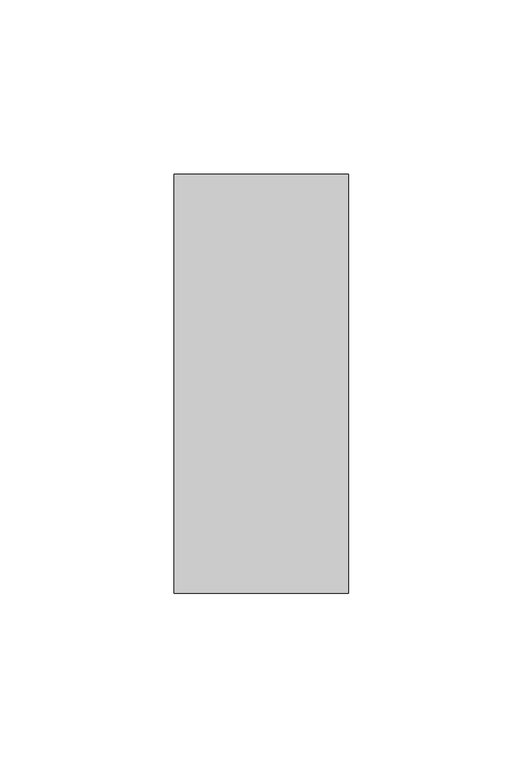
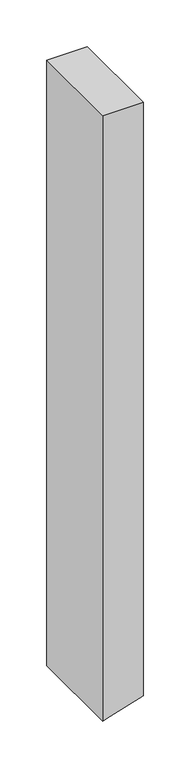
"""IFC4 building model written with IfcOpenShell, lengths in millimetres: member geometry, Прямоугольный импост : 50х120 мм."""

from ifc_helpers import new_model, si_unit, frame, origin, place, context, project, spatial, polyline, outline, extrude, source, transform, mapped, element, save


def member_0c93b0de(model_context):
    return source(origin(), model_context, "Body", "SweptSolid", [
        extrude(outline(polyline([(0.0, 25.0), (0.0, -25.0), (-792.3403965, -25.0), (-789.2376895, -15.4508497), (-776.0944117, 25.0), (0.0, 25.0)])), frame((0.0, -60.0, 0.0), z_axis=(0.0, 1.0, 0.0), x_axis=(0.0, 0.0, 1.0)), (0.0, 0.0, 1.0), 120.0),
    ])


if __name__ == "__main__":
    model = new_model("IFC4")
    model_context = context("Model", 3, world=origin())
    ifc_project = project(units=[si_unit("LENGTHUNIT", "METRE", prefix="MILLI")], contexts=[model_context])
    site = spatial("IfcSite", under=ifc_project)
    building = spatial("IfcBuilding", under=site)
    placement = place(None, origin())
    member_shape = member_0c93b0de(model_context)
    element("IfcMember", 1, ObjectType="Прямоугольный импост : 50х120 мм", at=placement, inside=building, context=model_context, shape_type="MappedRepresentation", body=[
        mapped(member_shape, transform((0.0, 0.0, 0.0), x_axis=(1.0, 0.0, 0.0), y_axis=(0.0, 1.0, 0.0), z_axis=(0.0, 0.0, 1.0))),
    ])
    save(model, "model.ifc")
